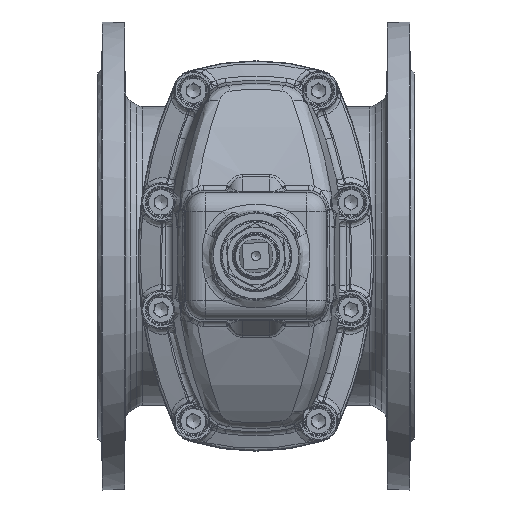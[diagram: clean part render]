
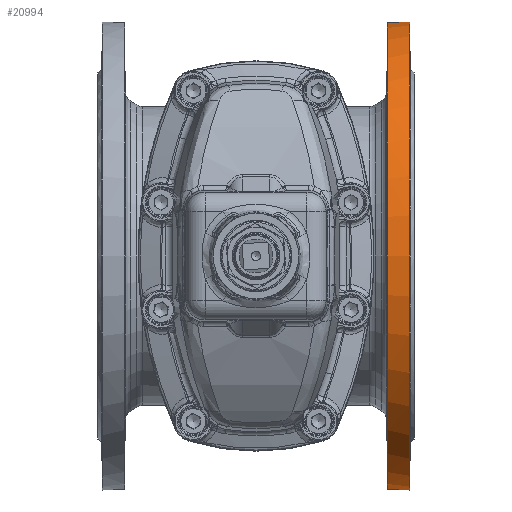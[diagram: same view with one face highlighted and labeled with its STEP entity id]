
A CAD part, left-side view. The second image highlights one B-rep face of the part: STEP entity #20994.
In plain terms, the highlighted cylindrical face has radius 170 mm (diameter 340 mm), a full revolution.
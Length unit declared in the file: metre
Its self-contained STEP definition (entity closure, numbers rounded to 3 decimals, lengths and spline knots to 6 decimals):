
#428=CYLINDRICAL_SURFACE('',#23047,0.17);
#1751=LINE('',#64561,#2376);
#1757=LINE('',#64736,#2382);
#1780=LINE('',#66397,#2405);
#2376=VECTOR('',#26781,0.008);
#2382=VECTOR('',#26815,0.008);
#2405=VECTOR('',#26906,0.17);
#3647=FACE_OUTER_BOUND('',#5047,.T.);
#5047=EDGE_LOOP('',(#17421,#17422,#17423,#17424,#17425,#17426,#17427,#17428,
#17429,#17430,#17431,#17432,#17433,#17434,#17435));
#6349=B_SPLINE_CURVE_WITH_KNOTS('',3,(#64548,#64549,#64550,#64551,#64552,
#64553,#64554,#64555,#64556,#64557),.UNSPECIFIED.,.F.,.F.,(4,2,2,2,4),(0.307534,
0.386355,0.465176,0.540368,0.61556),
 .UNSPECIFIED.);
#6350=B_SPLINE_CURVE_WITH_KNOTS('',3,(#64565,#64566,#64567,#64568,#64569,
#64570,#64571,#64572,#64573,#64574),.UNSPECIFIED.,.F.,.F.,(4,2,2,2,4),(0.,
0.075192,0.150383,0.229205,0.308026),
 .UNSPECIFIED.);
#6351=B_SPLINE_CURVE_WITH_KNOTS('',3,(#64613,#64614,#64615,#64616,#64617,
#64618,#64619,#64620,#64621,#64622),.UNSPECIFIED.,.F.,.F.,(4,2,2,2,4),(0.,
0.650125,1.305163,2.598242,2.610445),
 .UNSPECIFIED.);
#6352=B_SPLINE_CURVE_WITH_KNOTS('',3,(#64706,#64707,#64708,#64709,#64710,
#64711,#64712,#64713,#64714,#64715),.UNSPECIFIED.,.F.,.F.,(4,2,2,2,4),(-0.012202,
0.,1.293071,1.948104,2.598225),.UNSPECIFIED.);
#6353=B_SPLINE_CURVE_WITH_KNOTS('',3,(#64723,#64724,#64725,#64726,#64727,
#64728,#64729,#64730,#64731,#64732),.UNSPECIFIED.,.F.,.F.,(4,2,2,2,4),(0.923093,
1.001915,1.080736,1.155928,1.231119),
 .UNSPECIFIED.);
#6354=B_SPLINE_CURVE_WITH_KNOTS('',3,(#64738,#64739,#64740,#64741,#64742,
#64743,#64744,#64745,#64746,#64747),.UNSPECIFIED.,.F.,.F.,(4,2,2,2,4),(0.615565,
0.690757,0.765949,0.84477,0.923591),
 .UNSPECIFIED.);
#7697=CIRCLE('',#23002,0.17);
#7703=CIRCLE('',#23011,0.17);
#7717=CIRCLE('',#23045,0.17);
#7718=CIRCLE('',#23046,0.17);
#7719=CIRCLE('',#23048,0.17);
#9207=VERTEX_POINT('',#64054);
#9219=VERTEX_POINT('',#64114);
#9221=VERTEX_POINT('',#64150);
#9263=VERTEX_POINT('',#64542);
#9264=VERTEX_POINT('',#64546);
#9265=VERTEX_POINT('',#64559);
#9266=VERTEX_POINT('',#64563);
#9269=VERTEX_POINT('',#64630);
#9270=VERTEX_POINT('',#64717);
#9271=VERTEX_POINT('',#64721);
#9272=VERTEX_POINT('',#64734);
#9299=VERTEX_POINT('',#65883);
#9323=VERTEX_POINT('',#66396);
#12040=EDGE_CURVE('',#9263,#9264,#6349,.T.);
#12042=EDGE_CURVE('',#9264,#9265,#1751,.F.);
#12044=EDGE_CURVE('',#9265,#9266,#6350,.T.);
#12045=EDGE_CURVE('',#9266,#9207,#7697,.F.);
#12046=EDGE_CURVE('',#9207,#9219,#6351,.T.);
#12053=EDGE_CURVE('',#9219,#9221,#6352,.T.);
#12055=EDGE_CURVE('',#9221,#9270,#7703,.F.);
#12057=EDGE_CURVE('',#9270,#9271,#6353,.T.);
#12059=EDGE_CURVE('',#9271,#9272,#1757,.T.);
#12060=EDGE_CURVE('',#9272,#9269,#6354,.T.);
#12113=EDGE_CURVE('',#9299,#9263,#7717,.F.);
#12115=EDGE_CURVE('',#9269,#9299,#7718,.F.);
#12139=EDGE_CURVE('',#9219,#9323,#1780,.T.);
#12140=EDGE_CURVE('',#9323,#9323,#7719,.F.);
#17421=ORIENTED_EDGE('',*,*,#12060,.T.);
#17422=ORIENTED_EDGE('',*,*,#12115,.T.);
#17423=ORIENTED_EDGE('',*,*,#12113,.T.);
#17424=ORIENTED_EDGE('',*,*,#12040,.T.);
#17425=ORIENTED_EDGE('',*,*,#12042,.T.);
#17426=ORIENTED_EDGE('',*,*,#12044,.T.);
#17427=ORIENTED_EDGE('',*,*,#12045,.T.);
#17428=ORIENTED_EDGE('',*,*,#12046,.T.);
#17429=ORIENTED_EDGE('',*,*,#12139,.T.);
#17430=ORIENTED_EDGE('',*,*,#12140,.F.);
#17431=ORIENTED_EDGE('',*,*,#12139,.F.);
#17432=ORIENTED_EDGE('',*,*,#12053,.T.);
#17433=ORIENTED_EDGE('',*,*,#12055,.T.);
#17434=ORIENTED_EDGE('',*,*,#12057,.T.);
#17435=ORIENTED_EDGE('',*,*,#12059,.T.);
#20994=ADVANCED_FACE('',(#3647),#428,.T.);
#23002=AXIS2_PLACEMENT_3D('',#64576,#26787,#26788);
#23011=AXIS2_PLACEMENT_3D('',#64719,#26807,#26808);
#23045=AXIS2_PLACEMENT_3D('',#65884,#26899,#26900);
#23046=AXIS2_PLACEMENT_3D('',#65886,#26902,#26903);
#23047=AXIS2_PLACEMENT_3D('',#66395,#26904,#26905);
#23048=AXIS2_PLACEMENT_3D('',#66398,#26907,#26908);
#26781=DIRECTION('',(0.,1.,0.));
#26787=DIRECTION('center_axis',(0.,1.,0.));
#26788=DIRECTION('ref_axis',(-0.282,0.,-0.959));
#26807=DIRECTION('center_axis',(0.,1.,0.));
#26808=DIRECTION('ref_axis',(0.153,0.,-0.988));
#26815=DIRECTION('',(0.,1.,0.));
#26899=DIRECTION('center_axis',(0.,1.,0.));
#26900=DIRECTION('ref_axis',(0.,0.,1.));
#26902=DIRECTION('center_axis',(0.,1.,0.));
#26903=DIRECTION('ref_axis',(0.,0.,1.));
#26904=DIRECTION('center_axis',(0.,1.,0.));
#26905=DIRECTION('ref_axis',(0.,0.,1.));
#26906=DIRECTION('',(0.,-1.,0.));
#26907=DIRECTION('center_axis',(0.,1.,0.));
#26908=DIRECTION('ref_axis',(0.,0.,-1.));
#64054=CARTESIAN_POINT('',(-0.026,-0.10748,-0.168));
#64114=CARTESIAN_POINT('',(0.,-0.10748,-0.17));
#64150=CARTESIAN_POINT('',(0.026,-0.10748,-0.168));
#64542=CARTESIAN_POINT('',(-0.048,-0.09548,-0.163083));
#64546=CARTESIAN_POINT('',(-0.05,-0.09748,-0.162481));
#64548=CARTESIAN_POINT('Ctrl Pts',(-0.048,-0.09548,-0.163083));
#64549=CARTESIAN_POINT('Ctrl Pts',(-0.048252,-0.09548,
-0.163009));
#64550=CARTESIAN_POINT('Ctrl Pts',(-0.048521,-0.09553,
-0.162929));
#64551=CARTESIAN_POINT('Ctrl Pts',(-0.049018,-0.095738,
-0.16278));
#64552=CARTESIAN_POINT('Ctrl Pts',(-0.049246,-0.095895,
-0.162711));
#64553=CARTESIAN_POINT('Ctrl Pts',(-0.049598,-0.096253,
-0.162604));
#64554=CARTESIAN_POINT('Ctrl Pts',(-0.049749,-0.096475,
-0.162558));
#64555=CARTESIAN_POINT('Ctrl Pts',(-0.04995,-0.096963,
-0.162496));
#64556=CARTESIAN_POINT('Ctrl Pts',(-0.05,-0.097229,-0.162481));
#64557=CARTESIAN_POINT('Ctrl Pts',(-0.05,-0.09748,-0.162481));
#64559=CARTESIAN_POINT('',(-0.05,-0.10548,-0.162481));
#64561=CARTESIAN_POINT('',(-0.05,-0.10548,-0.162481));
#64563=CARTESIAN_POINT('',(-0.048,-0.10748,-0.163083));
#64565=CARTESIAN_POINT('Ctrl Pts',(-0.05,-0.10548,-0.162481));
#64566=CARTESIAN_POINT('Ctrl Pts',(-0.05,-0.105731,-0.162481));
#64567=CARTESIAN_POINT('Ctrl Pts',(-0.04995,-0.105997,
-0.162496));
#64568=CARTESIAN_POINT('Ctrl Pts',(-0.049749,-0.106485,
-0.162558));
#64569=CARTESIAN_POINT('Ctrl Pts',(-0.049598,-0.106707,
-0.162604));
#64570=CARTESIAN_POINT('Ctrl Pts',(-0.049246,-0.107065,
-0.162711));
#64571=CARTESIAN_POINT('Ctrl Pts',(-0.049018,-0.107222,
-0.16278));
#64572=CARTESIAN_POINT('Ctrl Pts',(-0.048521,-0.10743,
-0.162929));
#64573=CARTESIAN_POINT('Ctrl Pts',(-0.048252,-0.10748,
-0.163009));
#64574=CARTESIAN_POINT('Ctrl Pts',(-0.048,-0.10748,-0.163083));
#64576=CARTESIAN_POINT('Origin',(0.,-0.10748,
0.));
#64613=CARTESIAN_POINT('Ctrl Pts',(-0.026,-0.10748,
-0.168));
#64614=CARTESIAN_POINT('Ctrl Pts',(-0.023858,-0.10748,
-0.168331));
#64615=CARTESIAN_POINT('Ctrl Pts',(-0.021711,-0.10748,
-0.168622));
#64616=CARTESIAN_POINT('Ctrl Pts',(-0.017389,-0.10748,
-0.169122));
#64617=CARTESIAN_POINT('Ctrl Pts',(-0.015215,-0.10748,
-0.169332));
#64618=CARTESIAN_POINT('Ctrl Pts',(-0.008741,-0.10748,
-0.16983));
#64619=CARTESIAN_POINT('Ctrl Pts',(-0.004432,-0.10748,
-0.169997));
#64620=CARTESIAN_POINT('Ctrl Pts',(-0.000081,-0.10748,
-0.17));
#64621=CARTESIAN_POINT('Ctrl Pts',(-0.000041,-0.10748,
-0.17));
#64622=CARTESIAN_POINT('Ctrl Pts',(0.,-0.10748,
-0.17));
#64630=CARTESIAN_POINT('',(0.048,-0.09548,-0.163083));
#64706=CARTESIAN_POINT('Ctrl Pts',(0.,-0.10748,
-0.17));
#64707=CARTESIAN_POINT('Ctrl Pts',(0.000041,-0.10748,
-0.17));
#64708=CARTESIAN_POINT('Ctrl Pts',(0.000081,-0.10748,
-0.17));
#64709=CARTESIAN_POINT('Ctrl Pts',(0.004432,-0.10748,
-0.169997));
#64710=CARTESIAN_POINT('Ctrl Pts',(0.008741,-0.10748,
-0.16983));
#64711=CARTESIAN_POINT('Ctrl Pts',(0.015215,-0.10748,
-0.169332));
#64712=CARTESIAN_POINT('Ctrl Pts',(0.017389,-0.10748,
-0.169122));
#64713=CARTESIAN_POINT('Ctrl Pts',(0.021711,-0.10748,
-0.168622));
#64714=CARTESIAN_POINT('Ctrl Pts',(0.023858,-0.10748,
-0.168331));
#64715=CARTESIAN_POINT('Ctrl Pts',(0.026,-0.10748,-0.168));
#64717=CARTESIAN_POINT('',(0.048,-0.10748,-0.163083));
#64719=CARTESIAN_POINT('Origin',(0.,-0.10748,
0.));
#64721=CARTESIAN_POINT('',(0.05,-0.10548,-0.162481));
#64723=CARTESIAN_POINT('Ctrl Pts',(0.048,-0.10748,-0.163083));
#64724=CARTESIAN_POINT('Ctrl Pts',(0.048252,-0.10748,
-0.163009));
#64725=CARTESIAN_POINT('Ctrl Pts',(0.048521,-0.10743,
-0.162929));
#64726=CARTESIAN_POINT('Ctrl Pts',(0.049018,-0.107222,
-0.16278));
#64727=CARTESIAN_POINT('Ctrl Pts',(0.049246,-0.107065,
-0.162711));
#64728=CARTESIAN_POINT('Ctrl Pts',(0.049598,-0.106707,
-0.162604));
#64729=CARTESIAN_POINT('Ctrl Pts',(0.049749,-0.106485,
-0.162558));
#64730=CARTESIAN_POINT('Ctrl Pts',(0.04995,-0.105997,
-0.162496));
#64731=CARTESIAN_POINT('Ctrl Pts',(0.05,-0.105731,-0.162481));
#64732=CARTESIAN_POINT('Ctrl Pts',(0.05,-0.10548,-0.162481));
#64734=CARTESIAN_POINT('',(0.05,-0.09748,-0.162481));
#64736=CARTESIAN_POINT('',(0.05,-0.10548,-0.162481));
#64738=CARTESIAN_POINT('Ctrl Pts',(0.05,-0.09748,-0.162481));
#64739=CARTESIAN_POINT('Ctrl Pts',(0.05,-0.097229,-0.162481));
#64740=CARTESIAN_POINT('Ctrl Pts',(0.04995,-0.096963,
-0.162496));
#64741=CARTESIAN_POINT('Ctrl Pts',(0.049749,-0.096475,
-0.162558));
#64742=CARTESIAN_POINT('Ctrl Pts',(0.049598,-0.096253,
-0.162604));
#64743=CARTESIAN_POINT('Ctrl Pts',(0.049246,-0.095895,
-0.162711));
#64744=CARTESIAN_POINT('Ctrl Pts',(0.049018,-0.095738,
-0.16278));
#64745=CARTESIAN_POINT('Ctrl Pts',(0.048521,-0.09553,
-0.162929));
#64746=CARTESIAN_POINT('Ctrl Pts',(0.048252,-0.09548,
-0.163009));
#64747=CARTESIAN_POINT('Ctrl Pts',(0.048,-0.09548,-0.163083));
#65883=CARTESIAN_POINT('',(0.,-0.09548,0.17));
#65884=CARTESIAN_POINT('Origin',(0.,-0.09548,0.));
#65886=CARTESIAN_POINT('Origin',(0.,-0.09548,0.));
#66395=CARTESIAN_POINT('Origin',(0.,0.,0.));
#66396=CARTESIAN_POINT('',(0.,-0.111703,-0.17));
#66397=CARTESIAN_POINT('',(0.,0.,-0.17));
#66398=CARTESIAN_POINT('Origin',(0.,-0.111703,0.));
